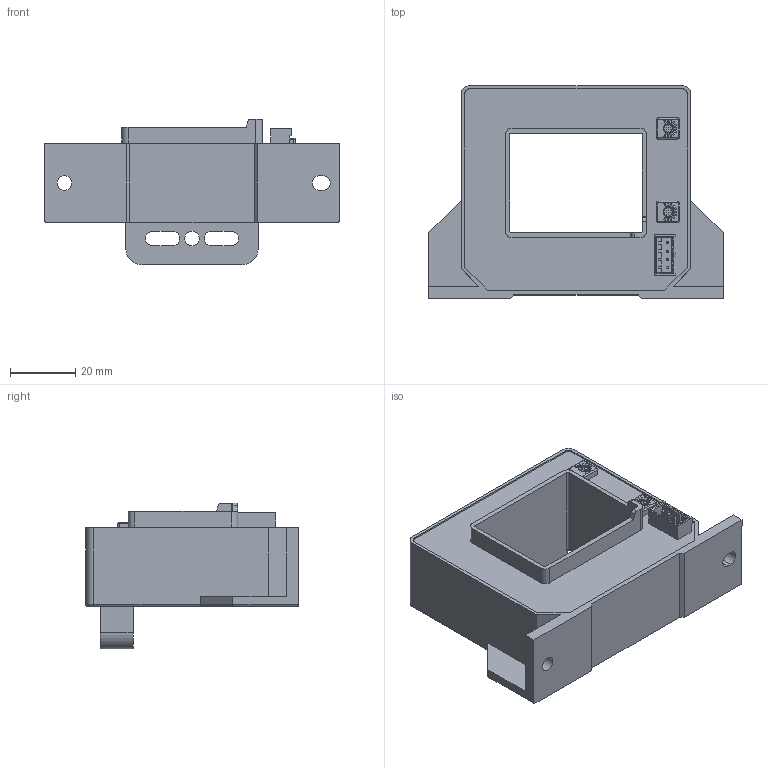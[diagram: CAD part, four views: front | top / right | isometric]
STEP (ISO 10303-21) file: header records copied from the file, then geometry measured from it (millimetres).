
FILE_DESCRIPTION(('Creo Elements/Direct Modeling STEP Export'),'2;1');
FILE_NAME('500.stp','2016-06-14T15:07:20',(''),(''),'PTC Creo Elements/Direct Modeling STEP processor for AP214 (Solid Model)','PTC Creo Elements/Direct Modeling 19.0B 21-Mar-2015 (C) Parametric Technology GmbH','');
FILE_SCHEMA(('AUTOMOTIVE_DESIGN { 1 0 10303 214 1 1 1 1 }'));
Length unit declared in the file: millimetre
Products named in the file (1): HAT-500-S-SP24
Bounding box: 90 x 65 x 44.5 mm (x, y, z)
Volume: 83336.2 mm3; surface area: 23380.2 mm2
Topology: 1 solids, 10 shells, 587 faces, 1476 edges, 970 vertices
Faces by surface type: plane 449, cylinder 119, torus 14, extrusion 5
Entity records: 21603 total; most frequent: CARTESIAN_POINT 3060, ORIENTED_EDGE 2952, DIRECTION 2808, EDGE_CURVE 1476, VECTOR 1214, LINE 1209, VERTEX_POINT 970, AXIS2_PLACEMENT_3D 797
